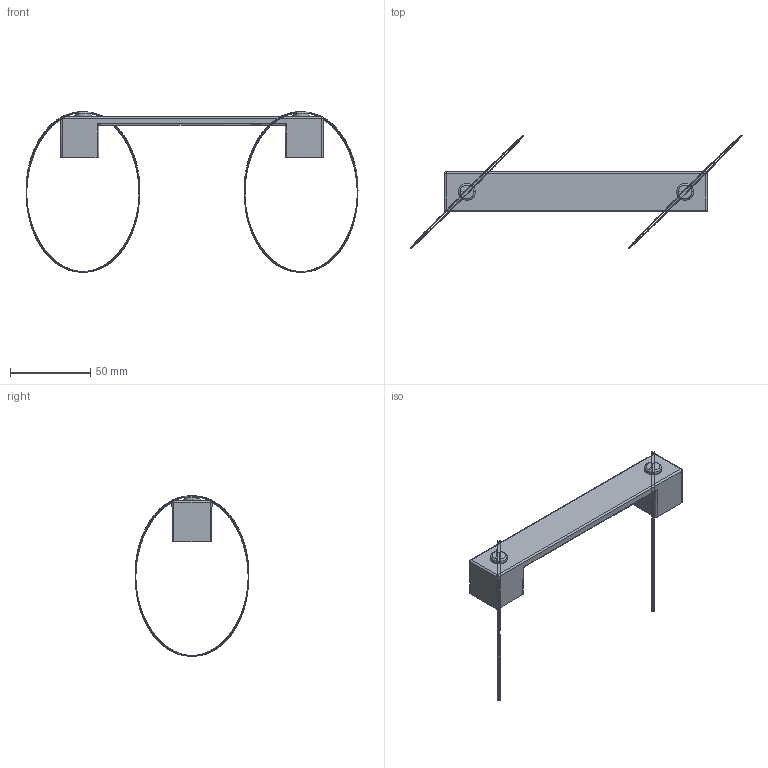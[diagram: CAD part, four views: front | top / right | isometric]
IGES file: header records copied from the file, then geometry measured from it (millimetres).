
Start section: Comment
Global section: file name: 8004-164 B1X2.igs; native system: Parasolid(12.0); preprocessor: Pariges 4.4; author: Author; organization: Title; date: 20210707.135310; units: millimetre
Bounding box: 206.98 x 70.98 x 99.98 mm (x, y, z)
Surface area: 20143.8 mm2 (no closed solid volume)
Topology: 0 solids, 0 shells, 111 faces, 862 edges, 854 vertices
Faces by surface type: revolution 53, extrusion 34, bspline 24
